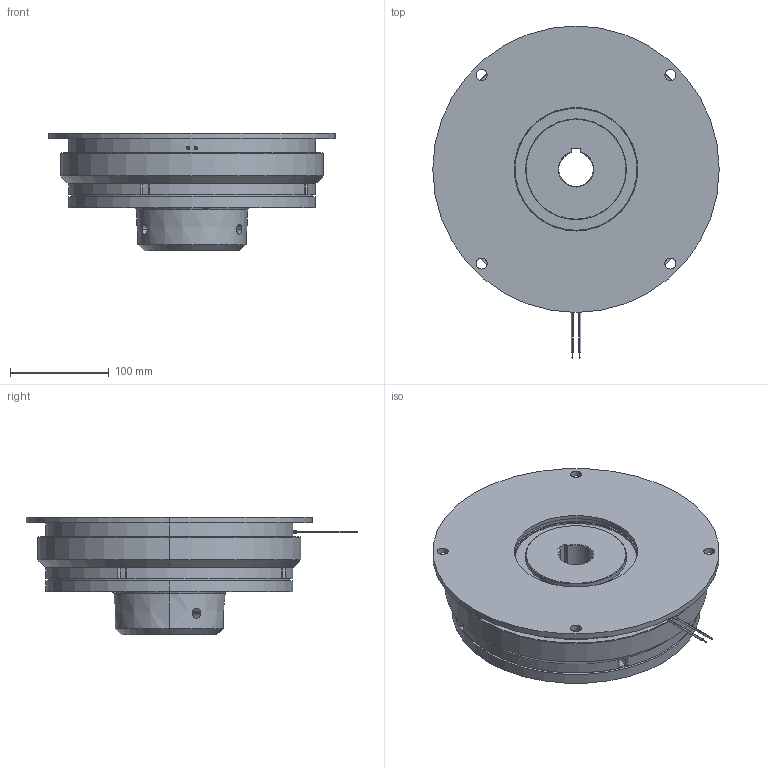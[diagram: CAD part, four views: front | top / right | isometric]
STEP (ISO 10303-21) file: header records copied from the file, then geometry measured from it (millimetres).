
FILE_DESCRIPTION (( 'STEP AP214' ), '1' );
FILE_NAME ('dr_bk_1203-130_mu.STEP', '2021-11-17T09:04:48', ( '' ), ( '' ), 'SwSTEP 2.0', 'SolidWorks 2019', '' );
FILE_SCHEMA (( 'AUTOMOTIVE_DESIGN' ));
Length unit declared in the file: millimetre
Products named in the file (11): 10068895_000; 10069135_000; 10068893_000; 10068906_000; 10068894_000; 10068900_000_Klemml„nge 9,5mm; 10069124_000; dr_bk_1203-130_mu; 10069165_000_M 12 x 20; 10068899_000; 10068905_000
Assembly tree (25 placements, depth 4):
  dr_bk_1203-130_mu
    10069124_000
    10069135_000
    10068905_000
      10068906_000
      10068899_000
        10068893_000
        10068894_000
        10068900_000_Klemml„nge 9,5mm  x4
        10068895_000  x4
      10068900_000_Klemml„nge 9,5mm  x4
      10068895_000  x4
      10069165_000_M 12 x 20  x2
Bounding box: 290 x 336 x 119.4 mm (x, y, z)
Volume: 3863096.6 mm3; surface area: 595239.1 mm2
Topology: 25 solids, 25 shells, 525 faces, 1212 edges, 724 vertices
Faces by surface type: cylinder 246, cone 130, plane 103, torus 46
Entity records: 12165 total; most frequent: CARTESIAN_POINT 2174, DIRECTION 1906, ORIENTED_EDGE 1576, EDGE_CURVE 788, AXIS2_PLACEMENT_3D 787, VERTEX_POINT 499, CIRCLE 430, EDGE_LOOP 421
